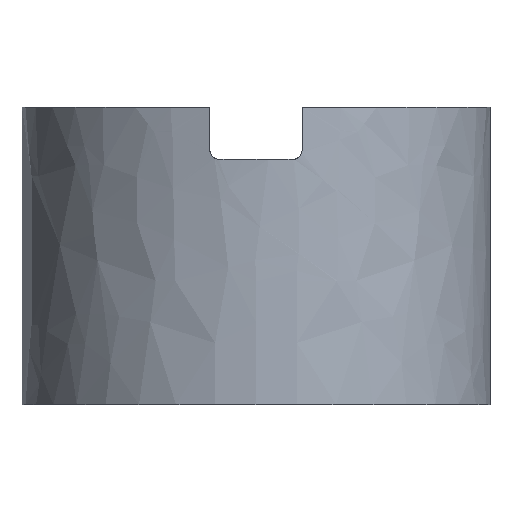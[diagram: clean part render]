
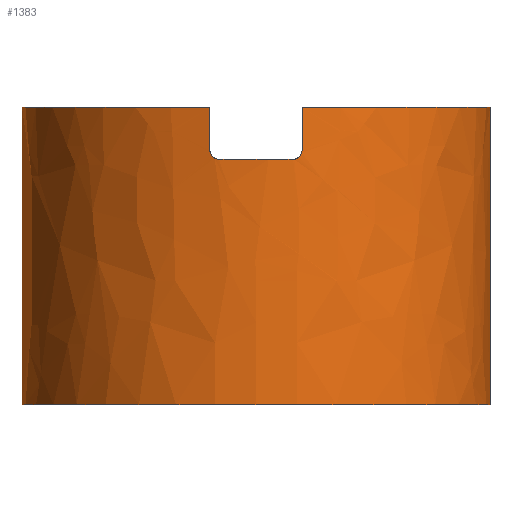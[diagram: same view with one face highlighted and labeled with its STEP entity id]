
A CAD part, left-side view. The second image highlights one B-rep face of the part: STEP entity #1383.
In plain terms, the highlighted free-form (B-spline) face has degree [8, 1] with [9, 2] control points.
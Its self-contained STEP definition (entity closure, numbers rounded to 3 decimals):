
#30=CARTESIAN_POINT('',(0.,0.,40.));
#31=DIRECTION('',(0.,0.,-1.));
#32=DIRECTION('',(0.,-1.,0.));
#33=AXIS2_PLACEMENT_3D('',#30,#31,#32);
#61=CARTESIAN_POINT('',(0.,0.,40.));
#62=DIRECTION('',(0.,0.,-1.));
#63=DIRECTION('',(-0.98,0.197,0.));
#64=AXIS2_PLACEMENT_3D('',#61,#62,#63);
#414=DIRECTION('',(0.,0.,-1.));
#415=VECTOR('',#414,40.);
#416=CARTESIAN_POINT('',(0.,31.5,40.));
#417=LINE('',#416,#415);
#423=DIRECTION('',(0.,0.,-1.));
#424=VECTOR('',#423,40.);
#425=CARTESIAN_POINT('',(0.,-31.5,40.));
#426=LINE('',#425,#424);
#435=DIRECTION('',(0.,0.,1.));
#436=VECTOR('',#435,5.8);
#437=CARTESIAN_POINT('',(-30.884,-6.2,34.2));
#438=LINE('',#437,#436);
#439=CARTESIAN_POINT('',(0.,0.,0.));
#440=DIRECTION('',(0.,0.,-1.));
#441=DIRECTION('',(0.,-1.,0.));
#442=AXIS2_PLACEMENT_3D('',#439,#440,#441);
#444=DIRECTION('',(0.,0.,1.));
#445=VECTOR('',#444,5.8);
#446=CARTESIAN_POINT('',(-30.884,6.2,34.2));
#447=LINE('',#446,#445);
#448=CARTESIAN_POINT('',(-31.101,5.,33.));
#449=CARTESIAN_POINT('',(-31.095,5.035,33.));
#450=CARTESIAN_POINT('',(-31.084,5.105,33.003));
#451=CARTESIAN_POINT('',(-31.066,5.21,33.017));
#452=CARTESIAN_POINT('',(-31.049,5.314,33.04));
#453=CARTESIAN_POINT('',(-31.031,5.414,33.072));
#454=CARTESIAN_POINT('',(-31.014,5.512,33.113));
#455=CARTESIAN_POINT('',(-30.997,5.605,33.162));
#456=CARTESIAN_POINT('',(-30.981,5.694,33.219));
#457=CARTESIAN_POINT('',(-30.966,5.777,33.283));
#458=CARTESIAN_POINT('',(-30.951,5.854,33.355));
#459=CARTESIAN_POINT('',(-30.938,5.925,33.433));
#460=CARTESIAN_POINT('',(-30.926,5.988,33.516));
#461=CARTESIAN_POINT('',(-30.915,6.043,33.604));
#462=CARTESIAN_POINT('',(-30.905,6.091,33.697));
#463=CARTESIAN_POINT('',(-30.898,6.131,33.793));
#464=CARTESIAN_POINT('',(-30.892,6.161,33.892));
#465=CARTESIAN_POINT('',(-30.887,6.184,33.994));
#466=CARTESIAN_POINT('',(-30.884,6.197,34.097));
#467=CARTESIAN_POINT('',(-30.884,6.2,34.166));
#468=CARTESIAN_POINT('',(-30.884,6.2,34.2));
#470=CARTESIAN_POINT('',(0.,0.,33.));
#471=DIRECTION('',(0.,0.,1.));
#472=DIRECTION('',(-0.987,0.159,0.));
#473=AXIS2_PLACEMENT_3D('',#470,#471,#472);
#475=CARTESIAN_POINT('',(-30.884,-6.2,34.2));
#476=CARTESIAN_POINT('',(-30.884,-6.2,34.166));
#477=CARTESIAN_POINT('',(-30.884,-6.197,34.097));
#478=CARTESIAN_POINT('',(-30.887,-6.184,33.994));
#479=CARTESIAN_POINT('',(-30.892,-6.161,33.892));
#480=CARTESIAN_POINT('',(-30.898,-6.131,33.793));
#481=CARTESIAN_POINT('',(-30.905,-6.091,33.697));
#482=CARTESIAN_POINT('',(-30.915,-6.043,33.604));
#483=CARTESIAN_POINT('',(-30.926,-5.988,33.516));
#484=CARTESIAN_POINT('',(-30.938,-5.925,33.433));
#485=CARTESIAN_POINT('',(-30.951,-5.854,33.355));
#486=CARTESIAN_POINT('',(-30.966,-5.777,33.283));
#487=CARTESIAN_POINT('',(-30.981,-5.694,33.219));
#488=CARTESIAN_POINT('',(-30.997,-5.605,33.162));
#489=CARTESIAN_POINT('',(-31.014,-5.512,33.113));
#490=CARTESIAN_POINT('',(-31.031,-5.414,33.072));
#491=CARTESIAN_POINT('',(-31.049,-5.314,33.04));
#492=CARTESIAN_POINT('',(-31.066,-5.21,33.017));
#493=CARTESIAN_POINT('',(-31.084,-5.105,33.003));
#494=CARTESIAN_POINT('',(-31.095,-5.035,33.));
#495=CARTESIAN_POINT('',(-31.101,-5.,33.));
#551=CARTESIAN_POINT('',(0.,31.5,40.));
#552=CARTESIAN_POINT('',(0.,31.5,0.));
#553=VERTEX_POINT('',#551);
#554=VERTEX_POINT('',#552);
#561=CARTESIAN_POINT('',(0.,-31.5,40.));
#562=CARTESIAN_POINT('',(0.,-31.5,0.));
#563=VERTEX_POINT('',#561);
#564=VERTEX_POINT('',#562);
#578=CARTESIAN_POINT('',(-30.884,-6.2,34.2));
#579=CARTESIAN_POINT('',(-30.884,-6.2,40.));
#580=VERTEX_POINT('',#578);
#581=VERTEX_POINT('',#579);
#582=VERTEX_POINT('',#495);
#583=CARTESIAN_POINT('',(-31.101,5.,33.));
#584=VERTEX_POINT('',#583);
#585=VERTEX_POINT('',#468);
#586=CARTESIAN_POINT('',(-30.884,6.2,40.));
#587=VERTEX_POINT('',#586);
#1349=CARTESIAN_POINT('',(1.978,31.438,-0.8));
#1350=CARTESIAN_POINT('',(1.978,31.438,40.8));
#1351=CARTESIAN_POINT('',(-10.862,32.246,-0.8));
#1352=CARTESIAN_POINT('',(-10.862,32.246,40.8));
#1353=CARTESIAN_POINT('',(-24.078,27.061,-0.8));
#1354=CARTESIAN_POINT('',(-24.078,27.061,40.8));
#1355=CARTESIAN_POINT('',(-34.407,15.687,-0.8));
#1356=CARTESIAN_POINT('',(-34.407,15.687,40.8));
#1357=CARTESIAN_POINT('',(-38.46,-0.004,-0.8));
#1358=CARTESIAN_POINT('',(-38.46,-0.004,40.8));
#1359=CARTESIAN_POINT('',(-34.407,-15.682,-0.8));
#1360=CARTESIAN_POINT('',(-34.407,-15.682,40.8));
#1361=CARTESIAN_POINT('',(-24.078,-27.061,-0.8));
#1362=CARTESIAN_POINT('',(-24.078,-27.061,40.8));
#1363=CARTESIAN_POINT('',(-10.862,-32.246,-0.8));
#1364=CARTESIAN_POINT('',(-10.862,-32.246,40.8));
#1365=CARTESIAN_POINT('',(1.978,-31.438,-0.8));
#1366=CARTESIAN_POINT('',(1.978,-31.438,40.8));
#1367=B_SPLINE_SURFACE_WITH_KNOTS('',8,1,((#1349,#1350),(#1351,#1352),(#1353,
#1354),(#1355,#1356),(#1357,#1358),(#1359,#1360),(#1361,#1362),(#1363,#1364),(
#1365,#1366)),.UNSPECIFIED.,.F.,.F.,.F.,(9,9),(2,2),(-0.063,
3.204),(-0.8,40.8),.UNSPECIFIED.);
#1368=ORIENTED_EDGE('',*,*,#727,.T.);
#1369=ORIENTED_EDGE('',*,*,#645,.F.);
#1370=ORIENTED_EDGE('',*,*,#1279,.T.);
#1371=ORIENTED_EDGE('',*,*,#1231,.T.);
#1372=ORIENTED_EDGE('',*,*,#1276,.F.);
#1373=ORIENTED_EDGE('',*,*,#680,.F.);
#1375=ORIENTED_EDGE('',*,*,#1374,.F.);
#1377=ORIENTED_EDGE('',*,*,#1376,.F.);
#1379=ORIENTED_EDGE('',*,*,#1378,.T.);
#1380=ORIENTED_EDGE('',*,*,#1307,.F.);
#1381=EDGE_LOOP('',(#1368,#1369,#1370,#1371,#1372,#1373,#1375,#1377,#1379,
#1380));
#1382=FACE_OUTER_BOUND('',#1381,.F.);
#34=CIRCLE('',#33,31.5);
#65=CIRCLE('',#64,31.5);
#443=CIRCLE('',#442,31.5);
#469=B_SPLINE_CURVE_WITH_KNOTS('',3,(#448,#449,#450,#451,#452,#453,#454,#455,
#456,#457,#458,#459,#460,#461,#462,#463,#464,#465,#466,#467,#468),.UNSPECIFIED.,
.F.,.F.,(4,1,1,1,1,1,1,1,1,1,1,1,1,1,1,1,1,1,4),(0.,0.056,
0.111,0.167,0.222,0.278,
0.333,0.389,0.444,0.5,0.556,
0.611,0.667,0.722,0.778,
0.833,0.889,0.944,1.),.UNSPECIFIED.);
#474=CIRCLE('',#473,31.5);
#496=B_SPLINE_CURVE_WITH_KNOTS('',3,(#475,#476,#477,#478,#479,#480,#481,#482,
#483,#484,#485,#486,#487,#488,#489,#490,#491,#492,#493,#494,#495),.UNSPECIFIED.,
.F.,.F.,(4,1,1,1,1,1,1,1,1,1,1,1,1,1,1,1,1,1,4),(0.,0.056,
0.111,0.167,0.222,0.278,
0.333,0.389,0.444,0.5,0.556,
0.611,0.667,0.722,0.778,
0.833,0.889,0.944,1.),.UNSPECIFIED.);
#645=EDGE_CURVE('',#563,#581,#34,.T.);
#680=EDGE_CURVE('',#587,#553,#65,.T.);
#727=EDGE_CURVE('',#580,#581,#438,.T.);
#1231=EDGE_CURVE('',#564,#554,#443,.T.);
#1276=EDGE_CURVE('',#553,#554,#417,.T.);
#1279=EDGE_CURVE('',#563,#564,#426,.T.);
#1307=EDGE_CURVE('',#580,#582,#496,.T.);
#1374=EDGE_CURVE('',#585,#587,#447,.T.);
#1376=EDGE_CURVE('',#584,#585,#469,.T.);
#1378=EDGE_CURVE('',#584,#582,#474,.T.);
#1383=ADVANCED_FACE('',(#1382),#1367,.T.);
